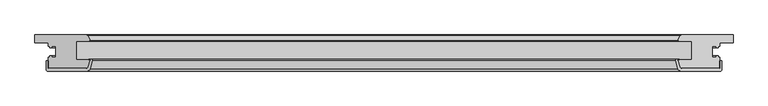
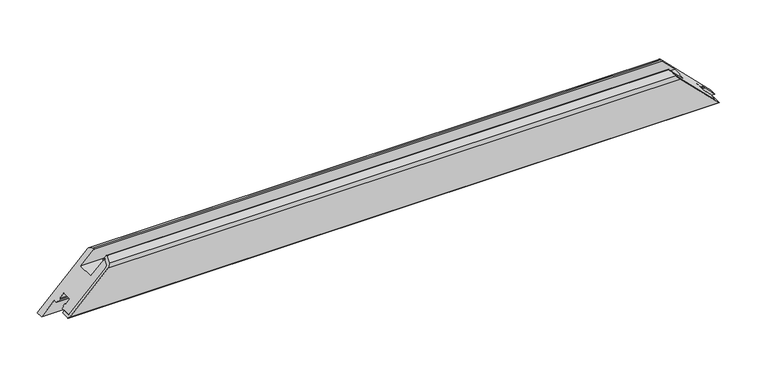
"""IFC4 building model written with IfcOpenShell, lengths in millimetres: proxy geometry, Weiku - Montante - Folha 02.2.01.017 : Weiku - Montante - Folha 02.2.01.017."""

from ifc_helpers import new_model, si_unit, frame, origin, place, context, project, spatial, polyline, ellipse_curve, source, transform, mapped, element, save
from ifc_brep_helpers import plane_surface, cylinder_surface, revolved_surface, advanced_brep


def generic_models_92be8411(model_context):
    return source(origin(), model_context, "Body", "AdvancedBrep", [
        advanced_brep(
        [(502.0, -50.0, 20.0), (-502.0, -50.0, 20.0), (-444.9997332, -50.0, 77.0002668), (444.9997332, -50.0, 77.0002668), (-442.1019557, -47.7764571, 79.8980443), (442.1019557, -47.7764571, 79.8980443), (-439.5170371, -38.1294095, 82.4829629), (439.5170371, -38.1294095, 82.4829629), (-440.0, -37.5, 82.0), (440.0, -37.5, 82.0), (-440.8560102, -37.5, 81.1439898), (440.8560102, -37.5, 81.1439898), (-440.8560102, -36.5, 81.1439898), (440.8560102, -36.5, 81.1439898), (-436.2425588, -36.5, 85.7574412), (436.2425588, -36.5, 85.7574412), (-435.2766329, -37.758819, 86.7233671), (435.2766329, -37.758819, 86.7233671), (-438.6354501, -50.2940952, 83.3645499), (438.6354501, -50.2940952, 83.3645499), (-443.4650792, -54.0, 78.5349208), (443.4650792, -54.0, 78.5349208), (-503.0, -54.0, 19.0), (503.0, -54.0, 19.0), (-505.0, -52.0, 17.0), (505.0, -52.0, 17.0), (-505.0, -38.5, 17.0), (505.0, -38.5, 17.0), (-502.0, -38.5, 20.0), (502.0, -38.5, 20.0)],
        [
            (0, 1),
            (1, 2),
            (2, 3),
            (3, 0),
            (2, 4, ellipse_curve(frame((-444.9997332, -47.0, 77.0002668), z_axis=(-0.7071067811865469, 0.0, 0.7071067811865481), x_axis=(0.7071067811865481, 0.0, 0.7071067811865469)), 4.2426407, 3.0)),
            (4, 5),
            (5, 3, ellipse_curve(frame((444.9997332, -47.0, 77.0002668), z_axis=(0.7071067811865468, 0.0, 0.7071067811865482), x_axis=(0.7071067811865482, 0.0, -0.7071067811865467)), 4.2426407, 3.0)),
            (4, 6),
            (6, 7),
            (7, 5),
            (6, 8, ellipse_curve(frame((-440.0, -38.0, 82.0), z_axis=(-0.7071067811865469, 0.0, 0.7071067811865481), x_axis=(0.7071067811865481, 0.0, 0.7071067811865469)), 0.7071068, 0.5)),
            (8, 9),
            (9, 7, ellipse_curve(frame((440.0, -38.0, 82.0), z_axis=(0.7071067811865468, 0.0, 0.7071067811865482), x_axis=(0.7071067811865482, 0.0, -0.7071067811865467)), 0.7071068, 0.5)),
            (8, 10),
            (10, 11),
            (11, 9),
            (10, 12, ellipse_curve(frame((-440.8560102, -37.0, 81.1439898), z_axis=(0.7071067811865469, 0.0, -0.7071067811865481), x_axis=(-0.7071067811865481, 0.0, -0.7071067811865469)), 0.7071068, 0.5)),
            (12, 13),
            (13, 11, ellipse_curve(frame((440.8560102, -37.0, 81.1439898), z_axis=(-0.7071067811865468, 0.0, -0.7071067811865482), x_axis=(-0.7071067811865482, 0.0, 0.7071067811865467)), 0.7071068, 0.5)),
            (12, 14),
            (14, 15),
            (15, 13),
            (14, 16, ellipse_curve(frame((-436.2425588, -37.5, 85.7574412), z_axis=(0.7071067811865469, 0.0, -0.7071067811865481), x_axis=(-0.7071067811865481, 0.0, -0.7071067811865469)), 1.4142136, 1.0)),
            (16, 17),
            (17, 15, ellipse_curve(frame((436.2425588, -37.5, 85.7574412), z_axis=(-0.7071067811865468, 0.0, -0.7071067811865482), x_axis=(-0.7071067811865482, 0.0, 0.7071067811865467)), 1.4142136, 1.0)),
            (16, 18),
            (18, 19),
            (19, 17),
            (18, 20, ellipse_curve(frame((-443.4650792, -49.0, 78.5349208), z_axis=(0.7071067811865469, 0.0, -0.7071067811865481), x_axis=(-0.7071067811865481, 0.0, -0.7071067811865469)), 7.0710678, 5.0)),
            (20, 21),
            (21, 19, ellipse_curve(frame((443.4650792, -49.0, 78.5349208), z_axis=(-0.7071067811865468, 0.0, -0.7071067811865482), x_axis=(-0.7071067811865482, 0.0, 0.7071067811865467)), 7.0710678, 5.0)),
            (20, 22),
            (22, 23),
            (23, 21),
            (22, 24, ellipse_curve(frame((-503.0, -52.0, 19.0), z_axis=(0.7071067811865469, 0.0, -0.7071067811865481), x_axis=(-0.7071067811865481, 0.0, -0.7071067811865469)), 2.8284271, 2.0)),
            (24, 25),
            (25, 23, ellipse_curve(frame((503.0, -52.0, 19.0), z_axis=(-0.7071067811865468, 0.0, -0.7071067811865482), x_axis=(-0.7071067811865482, 0.0, 0.7071067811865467)), 2.8284271, 2.0)),
            (24, 26),
            (26, 27),
            (27, 25),
            (26, 28),
            (28, 29),
            (29, 27),
            (28, 1),
            (0, 29),
        ],
        [
            plane_surface(frame((-542.0, -50.0, 20.0), z_axis=(0.0, 1.0, 0.0), x_axis=(1.0, 0.0, 0.0))),
            revolved_surface(polyline([(447.99973320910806, -50.0, 77.0002668), (-447.99973320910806, -50.0, 77.0002668)]), (-542.0, -47.0, 77.0002668), (1.0, 0.0, 0.0)),
            plane_surface(frame((-542.0, -47.7764571, 79.8980443), z_axis=(0.0, 0.2588190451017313, -0.9659258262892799), x_axis=(1.0, 0.0, 0.0))),
            revolved_surface(polyline([(440.50000001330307, -38.5, 82.0), (-440.5000000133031, -38.5, 82.0)]), (-542.0, -38.0, 82.0), (1.0, 0.0, 0.0)),
            plane_surface(frame((-542.0, -37.5, 82.0), z_axis=(0.0, -1.0, 0.0), x_axis=(1.0, 0.0, 0.0))),
            cylinder_surface(frame((-542.0, -37.0, 81.1439898), z_axis=(-1.0, 0.0, 0.0), x_axis=(0.0, -1.0, 0.0)), 0.5),
            plane_surface(frame((-542.0, -36.5, 81.1439898), z_axis=(0.0, 1.0, 0.0), x_axis=(1.0, 0.0, 0.0))),
            cylinder_surface(frame((-542.0, -37.5, 85.7574412), z_axis=(-1.0, 0.0, 0.0), x_axis=(0.0, -1.0, 0.0)), 1.0),
            plane_surface(frame((-542.0, -37.758819, 86.7233671), z_axis=(0.0, -0.25881904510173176, 0.9659258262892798), x_axis=(1.0, 0.0, 0.0))),
            cylinder_surface(frame((-542.0, -49.0, 78.5349208), z_axis=(-1.0, 0.0, 0.0), x_axis=(0.0, -1.0, 0.0)), 5.0),
            plane_surface(frame((-542.0, -54.0, 78.5349208), z_axis=(0.0, -1.0, 0.0), x_axis=(1.0, 0.0, 0.0))),
            cylinder_surface(frame((-542.0, -52.0, 19.0), z_axis=(-1.0, 0.0, 0.0), x_axis=(0.0, -1.0, 0.0)), 2.0),
            plane_surface(frame((-542.0, -52.0, 17.0), z_axis=(0.0, 0.0, -1.0), x_axis=(1.0, 0.0, 0.0))),
            plane_surface(frame((-542.0, -38.5, 17.0), z_axis=(0.0, 1.0, 0.0), x_axis=(1.0, 0.0, 0.0))),
            plane_surface(frame((-542.0, -38.5, 20.0), z_axis=(0.0, 0.0, 1.0), x_axis=(1.0, 0.0, 0.0))),
            plane_surface(frame((432.0, 0.0, 90.0), z_axis=(0.7071067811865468, 0.0, 0.7071067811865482), x_axis=(0.0, -1.0, 0.0))),
            plane_surface(frame((-550.2842712, 0.0, -28.2842712), z_axis=(-0.7071067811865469, 0.0, 0.7071067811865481), x_axis=(0.0, -1.0, 0.0))),
        ],
        [
            (0, [[1, 2, 3, 4]]),
            (1, [[-3, 5, 6, 7]]),
            (2, [[-6, 8, 9, 10]]),
            (3, [[-9, 11, 12, 13]]),
            (4, [[-12, 14, 15, 16]]),
            (5, [[-15, 17, 18, 19]]),
            (6, [[-18, 20, 21, 22]]),
            (7, [[-21, 23, 24, 25]]),
            (8, [[-24, 26, 27, 28]]),
            (9, [[-27, 29, 30, 31]]),
            (10, [[-30, 32, 33, 34]]),
            (11, [[-33, 35, 36, 37]]),
            (12, [[-36, 38, 39, 40]]),
            (13, [[-39, 41, 42, 43]]),
            (14, [[-42, 44, -1, 45]]),
            (15, [[-7, -10, -13, -16, -19, -22, -25, -28, -31, -34, -37, -40, -43, -45, -4]]),
            (16, [[-44, -41, -38, -35, -32, -29, -26, -23, -20, -17, -14, -11, -8, -5, -2]]),
        ],
    ),
        advanced_brep(
        [(-502.0, -50.0, 20.0), (502.0, -50.0, 20.0), (444.9997332, -50.0, 77.0002668), (-444.9997332, -50.0, 77.0002668), (-522.0, 0.0, 0.0), (-443.9872264, 0.0, 78.0127736), (443.9872264, 0.0, 78.0127736), (522.0, 0.0, 0.0), (-442.1019557, -47.7764571, 79.8980443), (-439.5170371, -38.1294095, 82.4829629), (-440.0, -37.5, 82.0), (-460.5, -37.5, 61.5), (-460.5, -9.5, 61.5), (-440.7134285, -9.5, 81.2865715), (-439.5512796, -7.617411, 82.4487204), (-443.0932657, -0.5518546, 78.9067343), (-522.0, -11.5, 0.0), (-502.0, -11.5, 20.0), (-502.0, -16.9, 20.0), (-499.8, -16.9, 22.2), (-499.8, -18.9, 22.2), (-497.0, -18.9, 25.0), (-497.0, -16.9, 25.0), (-490.5, -16.9, 31.5), (-490.5, -33.1, 31.5), (-497.0, -33.1, 25.0), (-497.0, -31.1, 25.0), (-499.8, -31.1, 22.2), (-499.8, -33.1, 22.2), (-502.0, -33.1, 20.0), (502.0, -33.1, 20.0), (499.8, -33.1, 22.2), (499.8, -31.1, 22.2), (497.0, -31.1, 25.0), (497.0, -33.1, 25.0), (490.5, -33.1, 31.5), (490.5, -16.9, 31.5), (497.0, -16.9, 25.0), (497.0, -18.9, 25.0), (499.8, -18.9, 22.2), (499.8, -16.9, 22.2), (502.0, -16.9, 20.0), (502.0, -11.5, 20.0), (522.0, -11.5, 0.0), (443.0932657, -0.5518546, 78.9067343), (439.5512796, -7.617411, 82.4487204), (440.7134285, -9.5, 81.2865715), (460.5, -9.5, 61.5), (460.5, -37.5, 61.5), (440.0, -37.5, 82.0), (439.5170371, -38.1294095, 82.4829629), (442.1019557, -47.7764571, 79.8980443)],
        [
            (0, 1),
            (1, 2),
            (2, 3),
            (3, 0),
            (4, 5),
            (5, 6),
            (6, 7),
            (7, 4),
            (3, 8, ellipse_curve(frame((-444.9997332, -47.0, 77.0002668), z_axis=(-0.7071067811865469, 0.0, 0.7071067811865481), x_axis=(-0.7071067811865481, 0.0, -0.7071067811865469)), 4.2426407, 3.0)),
            (8, 9),
            (9, 10, ellipse_curve(frame((-440.0, -38.0, 82.0), z_axis=(-0.7071067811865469, 0.0, 0.7071067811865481), x_axis=(-0.7071067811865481, 0.0, -0.7071067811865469)), 0.7071068, 0.5)),
            (10, 11),
            (11, 12),
            (12, 13),
            (13, 14, ellipse_curve(frame((-440.7134285, -8.2, 81.2865715), z_axis=(-0.7071067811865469, 0.0, 0.7071067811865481), x_axis=(-0.7071067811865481, 0.0, -0.7071067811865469)), 1.8384776, 1.3)),
            (14, 15),
            (15, 5, ellipse_curve(frame((-443.9872264, -1.0, 78.0127736), z_axis=(-0.7071067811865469, 0.0, 0.7071067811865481), x_axis=(-0.7071067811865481, 0.0, -0.7071067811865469)), 1.4142136, 1.0)),
            (4, 16),
            (16, 17),
            (17, 18),
            (18, 19),
            (19, 20),
            (20, 21),
            (21, 22),
            (22, 23),
            (23, 24),
            (24, 25),
            (25, 26),
            (26, 27),
            (27, 28),
            (28, 29),
            (29, 0),
            (1, 30),
            (30, 31),
            (31, 32),
            (32, 33),
            (33, 34),
            (34, 35),
            (35, 36),
            (36, 37),
            (37, 38),
            (38, 39),
            (39, 40),
            (40, 41),
            (41, 42),
            (42, 43),
            (43, 7),
            (6, 44, ellipse_curve(frame((443.9872264, -1.0, 78.0127736), z_axis=(0.7071067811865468, 0.0, 0.7071067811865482), x_axis=(-0.7071067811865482, 0.0, 0.7071067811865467)), 1.4142136, 1.0)),
            (44, 45),
            (45, 46, ellipse_curve(frame((440.7134285, -8.2, 81.2865715), z_axis=(0.7071067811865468, 0.0, 0.7071067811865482), x_axis=(-0.7071067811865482, 0.0, 0.7071067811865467)), 1.8384776, 1.3)),
            (46, 47),
            (47, 48),
            (48, 49),
            (49, 50, ellipse_curve(frame((440.0, -38.0, 82.0), z_axis=(0.7071067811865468, 0.0, 0.7071067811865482), x_axis=(-0.7071067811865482, 0.0, 0.7071067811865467)), 0.7071068, 0.5)),
            (50, 51),
            (51, 2, ellipse_curve(frame((444.9997332, -47.0, 77.0002668), z_axis=(0.7071067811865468, 0.0, 0.7071067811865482), x_axis=(-0.7071067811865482, 0.0, 0.7071067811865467)), 4.2426407, 3.0)),
            (15, 44),
            (14, 45),
            (13, 46),
            (12, 47),
            (11, 48),
            (10, 49),
            (9, 50),
            (8, 51),
            (29, 30),
            (28, 31),
            (27, 32),
            (26, 33),
            (25, 34),
            (24, 35),
            (23, 36),
            (22, 37),
            (21, 38),
            (20, 39),
            (19, 40),
            (18, 41),
            (17, 42),
            (16, 43),
        ],
        [
            plane_surface(frame((-522.0, -50.0, 77.0002668), z_axis=(0.0, -1.0, 0.0), x_axis=(1.0, 0.0, 0.0))),
            plane_surface(frame((-522.0, 0.0, 0.0), z_axis=(0.0, 1.0, 0.0), x_axis=(1.0, 0.0, 0.0))),
            plane_surface(frame((-550.2842712, 0.0, -28.2842712), z_axis=(-0.7071067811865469, 0.0, 0.7071067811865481), x_axis=(0.0, -1.0, 0.0))),
            plane_surface(frame((432.0, 0.0, 90.0), z_axis=(0.7071067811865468, 0.0, 0.7071067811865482), x_axis=(0.0, -1.0, 0.0))),
            cylinder_surface(frame((-522.0, -1.0, 78.0127736), z_axis=(-1.0, 0.0, 0.0), x_axis=(0.0, -1.0, 0.0)), 1.0),
            plane_surface(frame((-522.0, -0.5518546, 78.9067343), z_axis=(0.0, 0.4481453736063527, 0.8939606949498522), x_axis=(1.0, 0.0, 0.0))),
            cylinder_surface(frame((-522.0, -8.2, 81.2865715), z_axis=(-1.0, 0.0, 0.0), x_axis=(0.0, -1.0, 0.0)), 1.3),
            plane_surface(frame((-522.0, -9.5, 81.2865715), z_axis=(0.0, -1.0, 0.0), x_axis=(1.0, 0.0, 0.0))),
            plane_surface(frame((-522.0, -9.5, 61.5), z_axis=(0.0, 0.0, 1.0), x_axis=(1.0, 0.0, 0.0))),
            plane_surface(frame((-522.0, -37.5, 61.5), z_axis=(0.0, 1.0, 0.0), x_axis=(1.0, 0.0, 0.0))),
            cylinder_surface(frame((-522.0, -38.0, 82.0), z_axis=(-1.0, 0.0, 0.0), x_axis=(0.0, -1.0, 0.0)), 0.5),
            plane_surface(frame((-522.0, -38.1294095, 82.4829629), z_axis=(0.0, -0.2588190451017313, 0.9659258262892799), x_axis=(1.0, 0.0, 0.0))),
            cylinder_surface(frame((-522.0, -47.0, 77.0002668), z_axis=(-1.0, 0.0, 0.0), x_axis=(0.0, -1.0, 0.0)), 3.0),
            plane_surface(frame((-522.0, -50.0, 20.0), z_axis=(0.0, 0.0, -1.0), x_axis=(1.0, 0.0, 0.0))),
            plane_surface(frame((-522.0, -33.1, 20.0), z_axis=(0.0, 1.0, 0.0), x_axis=(1.0, 0.0, 0.0))),
            plane_surface(frame((-522.0, -33.1, 22.2), z_axis=(0.0, 0.0, -1.0), x_axis=(1.0, 0.0, 0.0))),
            plane_surface(frame((-522.0, -31.1, 22.2), z_axis=(0.0, 1.0, 0.0), x_axis=(1.0, 0.0, 0.0))),
            plane_surface(frame((-522.0, -31.1, 25.0), z_axis=(0.0, 0.0, 1.0), x_axis=(1.0, 0.0, 0.0))),
            plane_surface(frame((-522.0, -33.1, 25.0), z_axis=(0.0, 1.0, 0.0), x_axis=(1.0, 0.0, 0.0))),
            plane_surface(frame((-522.0, -33.1, 31.5), z_axis=(0.0, 0.0, -1.0), x_axis=(1.0, 0.0, 0.0))),
            plane_surface(frame((-522.0, -16.9, 31.5), z_axis=(0.0, -1.0, 0.0), x_axis=(1.0, 0.0, 0.0))),
            plane_surface(frame((-522.0, -16.9, 25.0), z_axis=(0.0, 0.0, 1.0), x_axis=(1.0, 0.0, 0.0))),
            plane_surface(frame((-522.0, -18.9, 25.0), z_axis=(0.0, -1.0, 0.0), x_axis=(1.0, 0.0, 0.0))),
            plane_surface(frame((-522.0, -18.9, 22.2), z_axis=(0.0, 0.0, -1.0), x_axis=(1.0, 0.0, 0.0))),
            plane_surface(frame((-522.0, -16.9, 22.2), z_axis=(0.0, -1.0, 0.0), x_axis=(1.0, 0.0, 0.0))),
            plane_surface(frame((-522.0, -16.9, 20.0), z_axis=(0.0, 0.0, -1.0), x_axis=(1.0, 0.0, 0.0))),
            plane_surface(frame((-522.0, -11.5, 20.0), z_axis=(0.0, -1.0, 0.0), x_axis=(1.0, 0.0, 0.0))),
            plane_surface(frame((-522.0, -11.5, 0.0), z_axis=(0.0, 0.0, -1.0), x_axis=(1.0, 0.0, 0.0))),
        ],
        [
            (0, [[1, 2, 3, 4]]),
            (1, [[5, 6, 7, 8]]),
            (2, [[9, 10, 11, 12, 13, 14, 15, 16, 17, -5, 18, 19, 20, 21, 22, 23, 24, 25, 26, 27, 28, 29, 30, 31, 32, -4]]),
            (3, [[33, 34, 35, 36, 37, 38, 39, 40, 41, 42, 43, 44, 45, 46, 47, -7, 48, 49, 50, 51, 52, 53, 54, 55, 56, -2]]),
            (4, [[57, -48, -6, -17]]),
            (5, [[58, -49, -57, -16]]),
            (6, [[59, -50, -58, -15]]),
            (7, [[60, -51, -59, -14]]),
            (8, [[61, -52, -60, -13]]),
            (9, [[62, -53, -61, -12]]),
            (10, [[63, -54, -62, -11]]),
            (11, [[64, -55, -63, -10]]),
            (12, [[-3, -56, -64, -9]]),
            (13, [[65, -33, -1, -32]]),
            (14, [[66, -34, -65, -31]]),
            (15, [[67, -35, -66, -30]]),
            (16, [[68, -36, -67, -29]]),
            (17, [[69, -37, -68, -28]]),
            (18, [[70, -38, -69, -27]]),
            (19, [[71, -39, -70, -26]]),
            (20, [[72, -40, -71, -25]]),
            (21, [[73, -41, -72, -24]]),
            (22, [[74, -42, -73, -23]]),
            (23, [[75, -43, -74, -22]]),
            (24, [[76, -44, -75, -21]]),
            (25, [[77, -45, -76, -20]]),
            (26, [[-46, -77, -19, 78]]),
            (27, [[-47, -78, -18, -8]]),
        ],
    ),
    ])


if __name__ == "__main__":
    model = new_model("IFC4")
    model_context = context("Model", 3, world=origin())
    ifc_project = project(units=[si_unit("LENGTHUNIT", "METRE", prefix="MILLI")], contexts=[model_context])
    site = spatial("IfcSite", under=ifc_project)
    building = spatial("IfcBuilding", under=site)
    placement = place(None, origin())
    generic_models_shape = generic_models_92be8411(model_context)
    element("IfcBuildingElementProxy", 1, Name="Weiku - Montante - Folha 02.2.01.017 : Weiku - Montante - Folha 02.2.01.017", ObjectType="Weiku - Montante - Folha 02.2.01.017 : Weiku - Montante - Folha 02.2.01.017", at=placement, inside=building, context=model_context, shape_type="MappedRepresentation", body=[
        mapped(generic_models_shape, transform((0.0, 0.0, 0.0), x_axis=(1.0, 0.0, 0.0), y_axis=(0.0, 1.0, 0.0), z_axis=(0.0, 0.0, 1.0))),
    ])
    save(model, "model.ifc")
